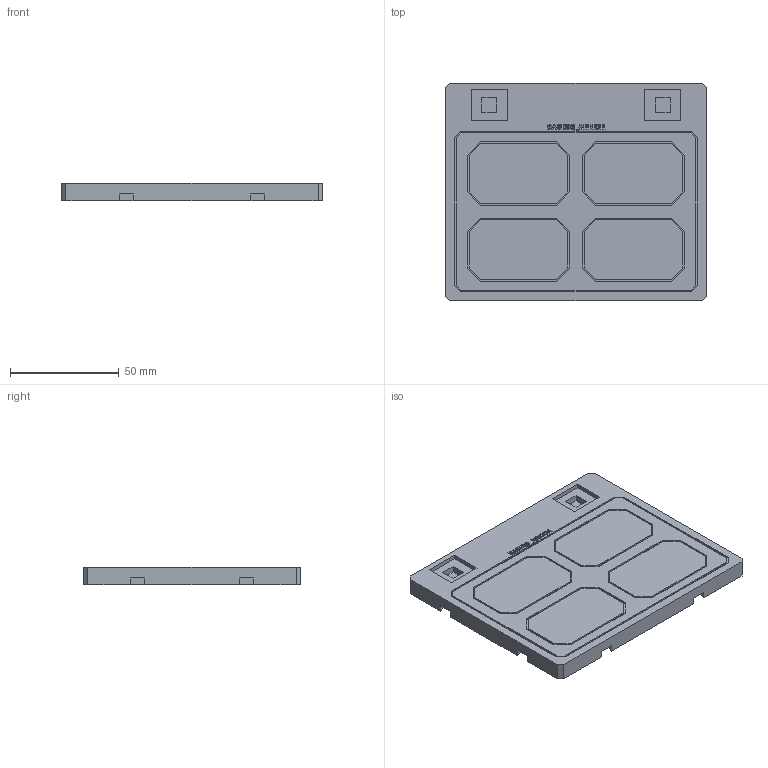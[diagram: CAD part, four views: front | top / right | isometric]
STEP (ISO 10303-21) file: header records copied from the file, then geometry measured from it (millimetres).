
FILE_DESCRIPTION(('Open CASCADE Model'),'2;1');
FILE_NAME('Open CASCADE Shape Model','2026-10-02T13:48:49',('Author'),( 'Open CASCADE'),'Open CASCADE STEP processor 7.8','Open CASCADE 7.8' ,'Unknown');
FILE_SCHEMA(('AUTOMOTIVE_DESIGN { 1 0 10303 214 1 1 1 1 }'));
Length unit declared in the file: millimetre
Products named in the file (1): Open CASCADE STEP translator 7.8 5
Bounding box: 120 x 100 x 8 mm (x, y, z)
Volume: 91896.8 mm3; surface area: 29785.1 mm2
Topology: 1 solids, 1 shells, 399 faces, 1089 edges, 726 vertices
Faces by surface type: plane 279, extrusion 120
Entity records: 26382 total; most frequent: CARTESIAN_POINT 5961, DIRECTION 3099, VECTOR 2539, LINE 2419, ORIENTED_EDGE 2178, PCURVE 2178, DEFINITIONAL_REPRESENTATION 2178, EDGE_CURVE 1089
